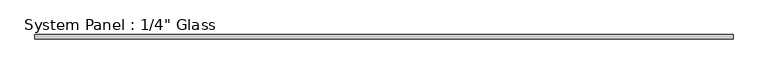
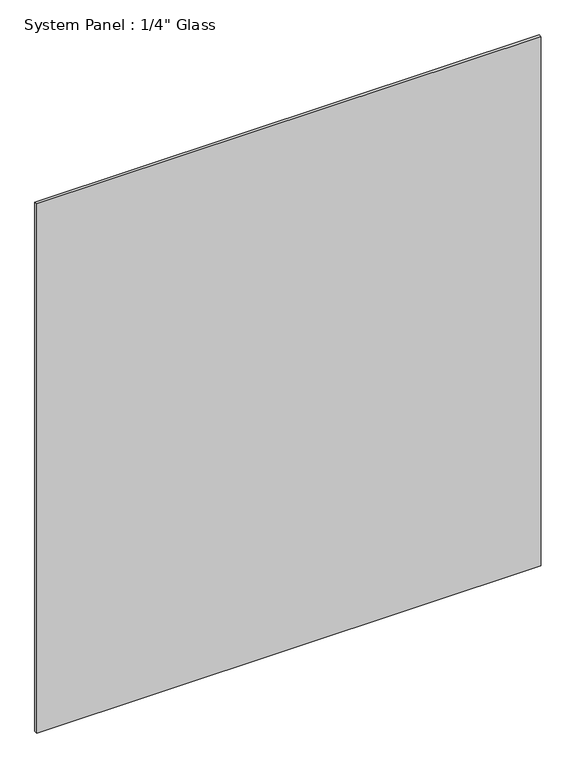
"""IFC4 building model written with IfcOpenShell, lengths in millimetres: plate geometry."""

from ifc_helpers import new_model, si_unit, origin, origin_with_axes, place, context, project, spatial, polyline, outline, extrude, source, transform, mapped, element, save


def plate_30067b60(model_context):
    return source(origin(), model_context, "Body", "SweptSolid", [
        extrude(outline(polyline([(525.8680918, -3.175), (-525.8680918, -3.175), (-525.8680918, 3.175), (525.8680918, 3.175), (525.8680918, -3.175)])), origin_with_axes(), (0.0, 0.0, 1.0), 1166.3844027),
    ])


if __name__ == "__main__":
    model = new_model("IFC4")
    model_context = context("Model", 3, world=origin())
    ifc_project = project(units=[si_unit("LENGTHUNIT", "METRE", prefix="MILLI")], contexts=[model_context])
    site = spatial("IfcSite", under=ifc_project)
    building = spatial("IfcBuilding", under=site)
    placement = place(None, origin())
    plate_shape = plate_30067b60(model_context)
    element("IfcPlate", 1, ObjectType="System Panel : 1/4\" Glass", at=placement, inside=building, context=model_context, shape_type="MappedRepresentation", body=[
        mapped(plate_shape, transform((0.0, 0.0, 0.0), x_axis=(1.0, 0.0, 0.0), y_axis=(0.0, 1.0, 0.0), z_axis=(0.0, 0.0, 1.0))),
    ])
    save(model, "model.ifc")
